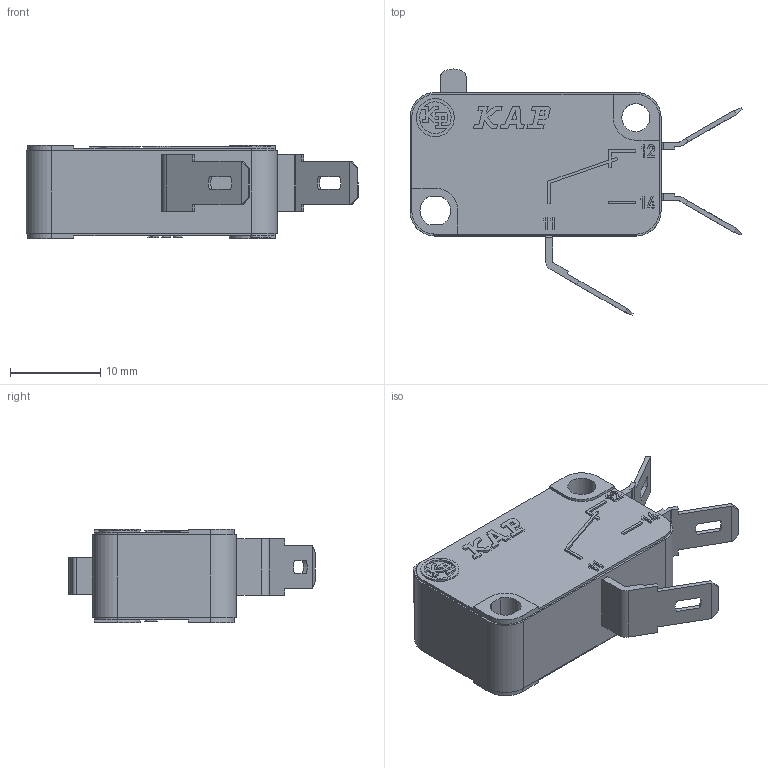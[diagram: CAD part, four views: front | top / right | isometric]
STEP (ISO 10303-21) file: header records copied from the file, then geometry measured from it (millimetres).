
FILE_DESCRIPTION(('Microrutor Miniatura Pino'),'2;1');
FILE_NAME('E:\WorkFolder\Bibl\3DWeb\kp_mv_mv$acb$_step.stp','2011-08-22T14:56:36',('DIE'),('KAP'),'Autodesk Inventor 2011','Autodesk Inventor 2011','Direitos reservados. Proibido reproducao, cedencia ou revelacao de conteudo a terceiros, salvo com autorizacao.');
FILE_SCHEMA(('AUTOMOTIVE_DESIGN { 1 0 10303 214 1 1 1 1 }'));
Length unit declared in the file: millimetre
Products named in the file (1): Part1
Bounding box: 36.75 x 27.25 x 10.3 mm (x, y, z)
Volume: 4194.2 mm3; surface area: 2369.6 mm2
Topology: 1 solids, 1 shells, 414 faces, 1125 edges, 745 vertices
Faces by surface type: plane 353, cylinder 61
Full cylindrical faces by diameter (mm): 3.1 x1, 4.2 x1
Entity records: 13323 total; most frequent: CARTESIAN_POINT 2281, ORIENTED_EDGE 2244, DIRECTION 2074, EDGE_CURVE 1122, VECTOR 1000, LINE 1000, VERTEX_POINT 744, AXIS2_PLACEMENT_3D 537
